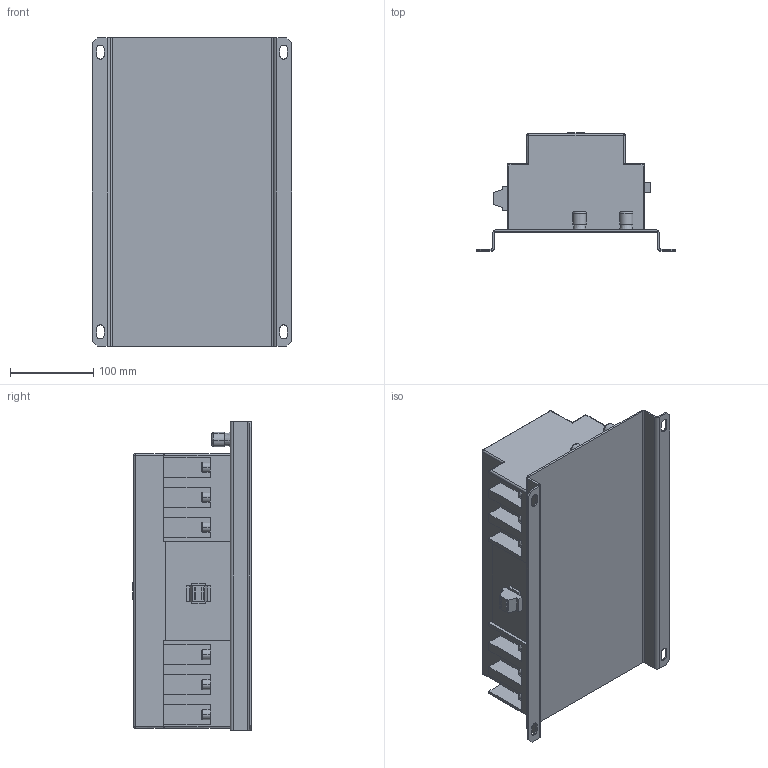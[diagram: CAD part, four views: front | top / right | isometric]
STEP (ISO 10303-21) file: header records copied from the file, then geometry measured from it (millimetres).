
FILE_DESCRIPTION (( 'STEP AP203' ), '1' );
FILE_NAME ('Óñòðîéñòâî ÀÂÐ ÒÑÌå-225-160A 3ð.STEP', '2018-05-23T08:38:01', ( '' ), ( '' ), 'SwSTEP 2.0', 'SolidWorks 2017', '' );
FILE_SCHEMA (( 'CONFIG_CONTROL_DESIGN' ));
Length unit declared in the file: millimetre
Products named in the file (1): Óñòðîéñòâî ÀÂÐ ÒÑÌå-225-160A 3ð
Bounding box: 240 x 142 x 370 mm (x, y, z)
Volume: 5592296.3 mm3; surface area: 360080.4 mm2
Topology: 1 solids, 1 shells, 380 faces, 952 edges, 614 vertices
Faces by surface type: plane 272, cylinder 70, torus 30, cone 4, sphere 4
Entity records: 11285 total; most frequent: CARTESIAN_POINT 1967, ORIENTED_EDGE 1896, DIRECTION 1894, EDGE_CURVE 948, VECTOR 748, LINE 748, VERTEX_POINT 614, AXIS2_PLACEMENT_3D 573
